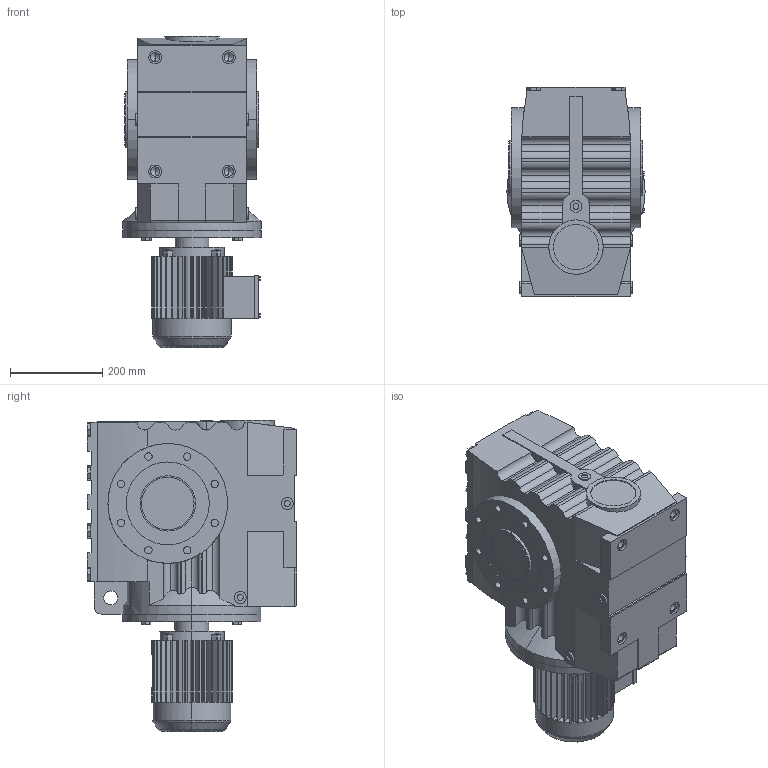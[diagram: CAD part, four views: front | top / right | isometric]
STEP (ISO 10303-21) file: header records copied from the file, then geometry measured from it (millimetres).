
FILE_DESCRIPTION(('Open CASCADE Model'),'2;1');
FILE_NAME('Open CASCADE Shape Model','2021-07-20T11:07:00',('Author'),( 'Open CASCADE'),'Open CASCADE STEP processor 6.3','Open CASCADE 6.3' ,'Unknown');
FILE_SCHEMA(('AUTOMOTIVE_DESIGN_CC2 { 1 2 10303 214 -1 1 5 4 }'));
Length unit declared in the file: millimetre
Products named in the file (4): 1_SA97-Y80M-70-A-W; SA47‵97_97.step; 萇儂_300_Y80M.step; す瑩諾陑粣S_97_70.step
Assembly tree (3 placements, depth 2):
  1_SA97-Y80M-70-A-W
    SA47‵97_97.step
    萇儂_300_Y80M.step
    す瑩諾陑粣S_97_70.step
Bounding box: 300 x 455 x 675 mm (x, y, z)
Volume: 48218924.2 mm3; surface area: 1665133.7 mm2
Topology: 3 solids, 3 shells, 821 faces, 2142 edges, 1388 vertices
Faces by surface type: plane 527, cylinder 275, cone 15, torus 4
Entity records: 61402 total; most frequent: CARTESIAN_POINT 21208, DIRECTION 6823, ORIENTED_EDGE 4268, PCURVE 4268, DEFINITIONAL_REPRESENTATION 4268, LINE 3518, VECTOR 3518, EDGE_CURVE 2134
